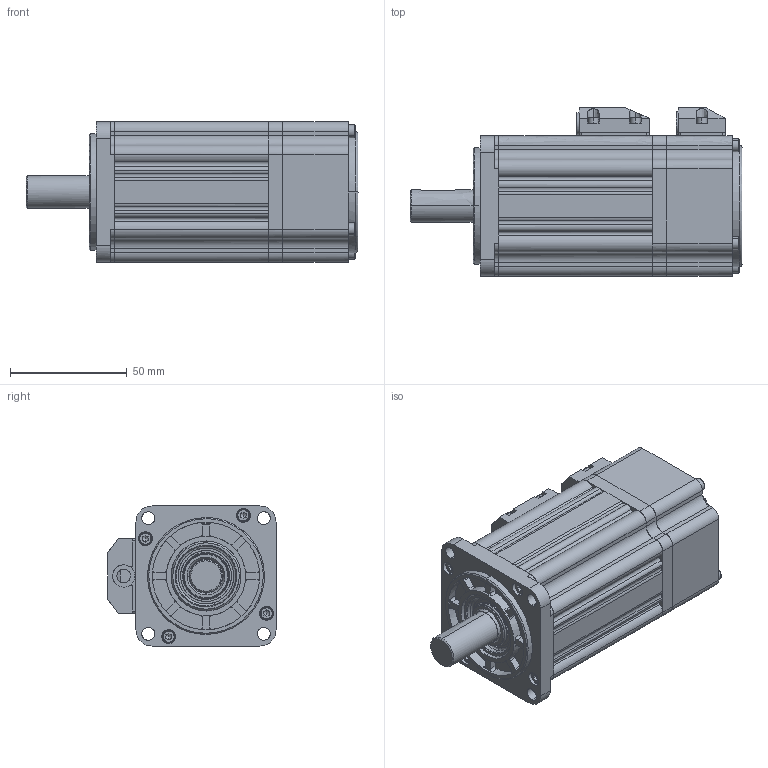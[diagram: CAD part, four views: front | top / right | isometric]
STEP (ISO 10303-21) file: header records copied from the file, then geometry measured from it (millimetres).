
FILE_DESCRIPTION (( 'STEP AP203' ), '1' );
FILE_NAME ('EMJ-02(APA,AFA,AFD)（without holding brake）e.STEP', '2020-03-30T01:53:45', ( '' ), ( '' ), 'SwSTEP 2.0', 'SolidWorks 2018', '' );
FILE_SCHEMA (( 'CONFIG_CONTROL_DESIGN' ));
Length unit declared in the file: millimetre
Products named in the file (1): EMJ-02(APA,AFA,AFD)（without holding brake）e
Bounding box: 142.2 x 72 x 60 mm (x, y, z)
Surface area: 104519.2 mm2 (no closed solid volume)
Topology: 0 solids, 48 shells, 1345 faces, 3821 edges, 2492 vertices
Faces by surface type: bspline 1345
Entity records: 57689 total; most frequent: CARTESIAN_POINT 36554, ORIENTED_EDGE 6862, EDGE_CURVE 3761, B_SPLINE_CURVE_WITH_KNOTS 2892, VERTEX_POINT 2492, EDGE_LOOP 1529, FACE_OUTER_BOUND 1345, ADVANCED_FACE 1345
